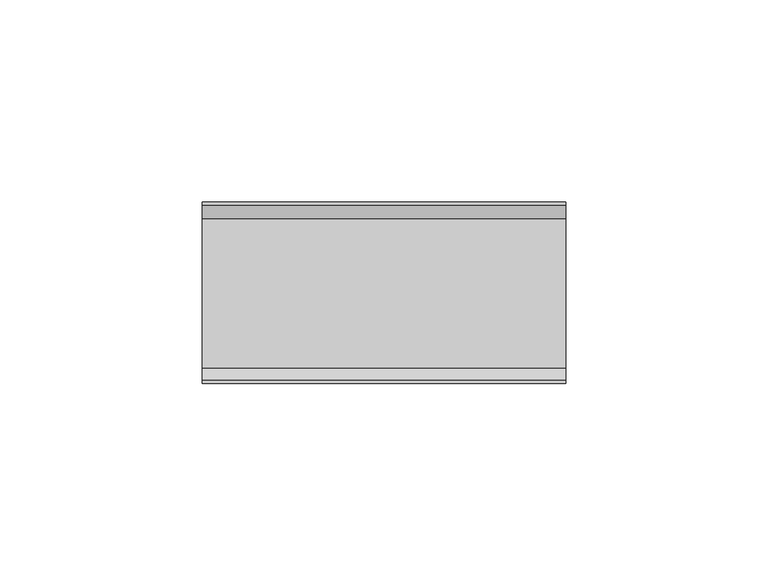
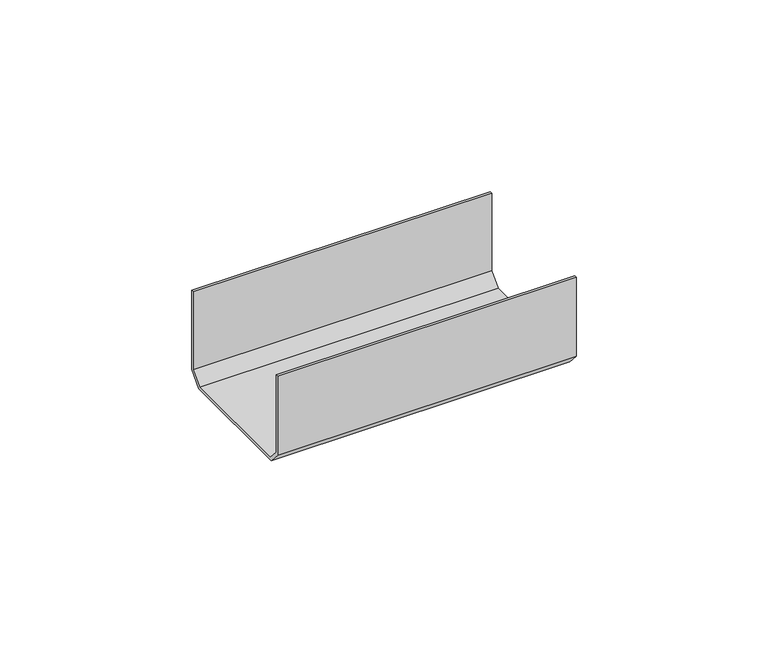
"""IFC4 building model written with IfcOpenShell, lengths in millimetres: cable carrier fitting geometry, JUER 50x50_Junction-Basortray : Basortray JUER50-GS."""

from ifc_helpers import new_model, si_unit, frame, origin, place, context, project, spatial, polyline, outline, extrude, source, transform, mapped, element, save


def cable_carrier_fitting_7dd08698(model_context):
    return source(origin(), model_context, "Body", "SweptSolid", [
        extrude(outline(polyline([(-22.5, -8.1461859), (-22.5, 17.0), (-21.7, 17.0), (-21.7, -7.7319723), (-18.6616587, -11.2), (18.2319723, -11.2), (21.7, -7.7319723), (21.7, 17.0), (22.5, 17.0), (22.5, -8.1461859), (18.6461859, -12.0), (-19.0315673, -12.0), (-22.5, -8.1461859)])), frame((-44.6, 0.0, 0.0), z_axis=(1.0, 0.0, 0.0), x_axis=(0.0, 1.0, 0.0)), (0.0, 0.0, 1.0), 90.0),
    ])


if __name__ == "__main__":
    model = new_model("IFC4")
    model_context = context("Model", 3, world=origin())
    ifc_project = project(units=[si_unit("LENGTHUNIT", "METRE", prefix="MILLI")], contexts=[model_context])
    site = spatial("IfcSite", under=ifc_project)
    building = spatial("IfcBuilding", under=site)
    placement = place(None, origin())
    cable_carrier_fitting_shape = cable_carrier_fitting_7dd08698(model_context)
    element("IfcCableCarrierFitting", 1, ObjectType="JUER 50x50_Junction-Basortray : Basortray JUER50-GS", at=placement, inside=building, context=model_context, shape_type="MappedRepresentation", body=[
        mapped(cable_carrier_fitting_shape, transform((0.0, 0.0, 0.0), x_axis=(1.0, 0.0, 0.0), y_axis=(0.0, 1.0, 0.0), z_axis=(0.0, 0.0, 1.0))),
    ])
    save(model, "model.ifc")
